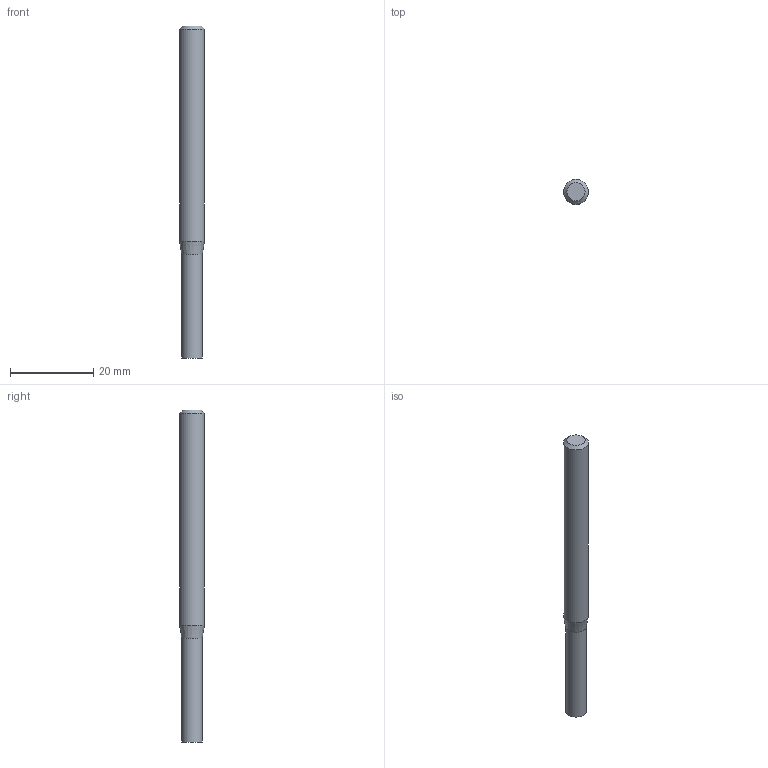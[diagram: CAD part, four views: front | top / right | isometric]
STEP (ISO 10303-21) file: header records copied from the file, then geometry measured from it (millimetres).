
FILE_DESCRIPTION((''),'2;1');
FILE_NAME('C:\Users\nsx150\Desktop\RSE230_20210427\01-00644-05001 RSE230 D5X25.step','2021-05-07T14:54:19',(''),(''),'STEP Write','Mastercam 2021 ... CNC Software, Inc.','');
FILE_SCHEMA(('AUTOMOTIVE_DESIGN'));
Length unit declared in the file: millimetre
Products named in the file (1): None
Bounding box: 6 x 6 x 80 mm (x, y, z)
Volume: 2026.4 mm3; surface area: 1502.7 mm2
Topology: 2 solids, 2 shells, 8 faces, 10 edges, 6 vertices
Faces by surface type: plane 4, cylinder 2, cone 2
Full cylindrical faces by diameter (mm): 5 x1, 6 x1
Entity records: 190 total; most frequent: DIRECTION 32, CARTESIAN_POINT 22, AXIS2_PLACEMENT_3D 16, ORIENTED_EDGE 12, EDGE_LOOP 12, STYLED_ITEM 11, ADVANCED_FACE 8, VERTEX_POINT 6
